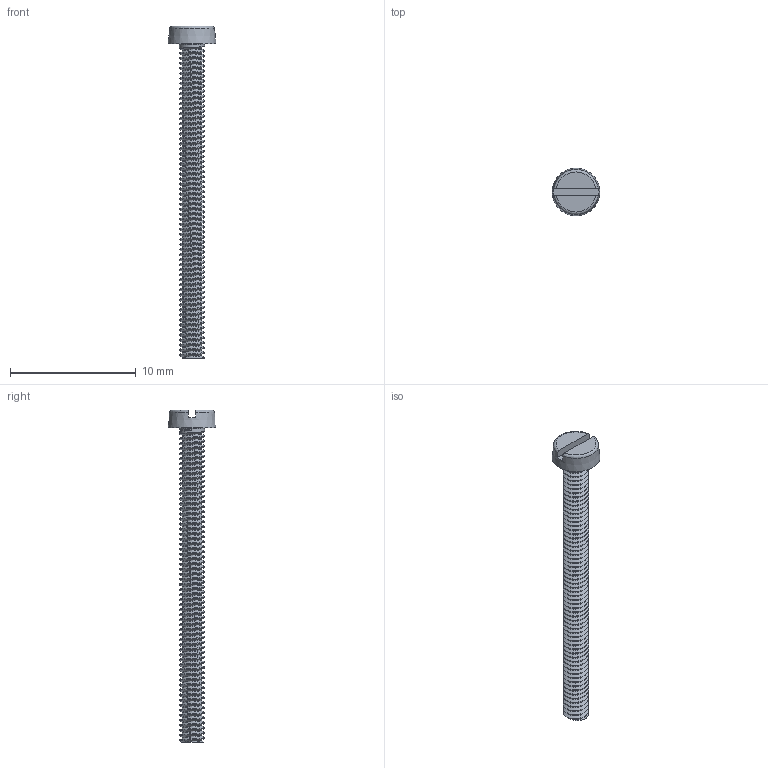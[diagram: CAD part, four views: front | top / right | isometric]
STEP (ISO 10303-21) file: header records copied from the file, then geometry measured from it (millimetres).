
FILE_DESCRIPTION(('FreeCAD Model'),'2;1');
FILE_NAME('Open CASCADE Shape Model','2022-11-10T09:01:40',( 'kicad StepUp'),('ksu MCAD'),'Open CASCADE STEP processor 7.5', 'FreeCAD','Unknown');
FILE_SCHEMA(('AUTOMOTIVE_DESIGN { 1 0 10303 214 1 1 1 1 }'));
Length unit declared in the file: millimetre
Products named in the file (1): M2x25-Screw
Bounding box: 3.8 x 3.8 x 26.4 mm (x, y, z)
Surface area: 270.1 mm2 (no closed solid volume)
Topology: 0 solids, 1 shells, 263 faces, 531 edges, 270 vertices
Faces by surface type: bspline 251, plane 7, revolution 3, cone 1, cylinder 1
Full cylindrical faces by diameter (mm): 2 x1
Entity records: 16554 total; most frequent: CARTESIAN_POINT 13165, ORIENTED_EDGE 1060, EDGE_CURVE 531, B_SPLINE_CURVE_WITH_KNOTS 385, VERTEX_POINT 270, FACE_BOUND 264, EDGE_LOOP 264, ADVANCED_FACE 263
